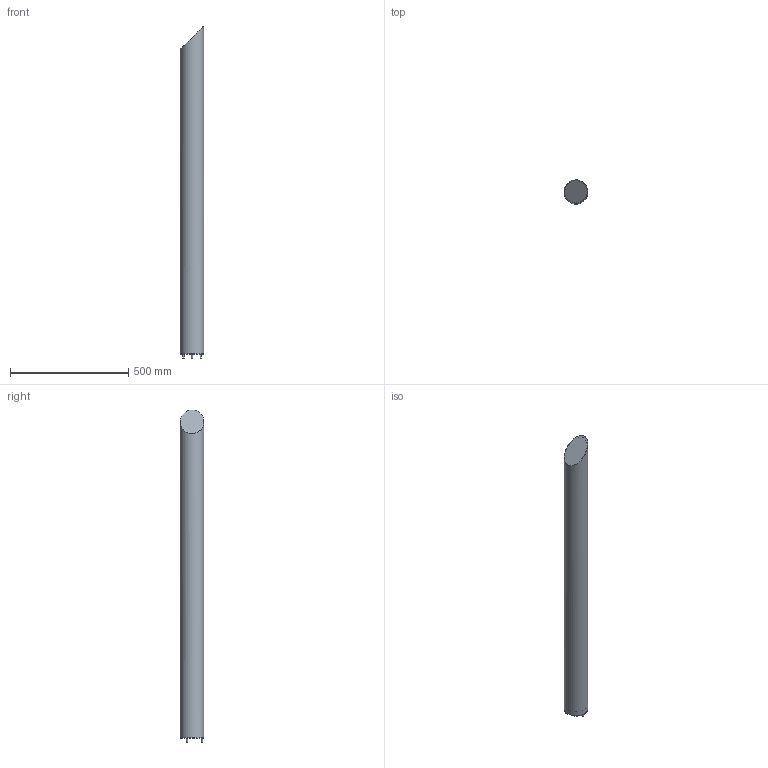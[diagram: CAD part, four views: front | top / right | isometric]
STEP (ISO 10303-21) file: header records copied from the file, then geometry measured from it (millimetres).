
FILE_DESCRIPTION(/* description */ (''),/* implementation_level */ '2;1');
FILE_NAME(/* name */ 'C:/Users/LukasGröber/GMS Cloud/Groeber Mannheim Lichtwerke - Dokumente/Marketing/Produkte/3D Daten/Light Star/Light Star 140.step',/* time_stamp */ '2022-07-06T12:50:42+02:00',/* author */ (''),/* organization */ (''),/* preprocessor_version */ 'ST-DEVELOPER v18.1',/* originating_system */ 'Autodesk Translation Framework v10.10.0.1391',/* authorisation */ '');
FILE_SCHEMA (('AUTOMOTIVE_DESIGN { 1 0 10303 214 3 1 1 }'));
Length unit declared in the file: millimetre
Products named in the file (3): Light Star 140 (Modell); Fuß Light Star/Stick Modell; Rohr Light Star 140
Assembly tree (2 placements, depth 2):
  Light Star 140 (Modell)
    Fuß Light Star/Stick Modell
    Rohr Light Star 140
Bounding box: 100 x 100 x 1402 mm (x, y, z)
Volume: 1425590.1 mm3; surface area: 857746.4 mm2
Topology: 2 solids, 2 shells, 18 faces, 26 edges, 17 vertices
Faces by surface type: plane 10, cylinder 7, cone 1
Full cylindrical faces by diameter (mm): 5 x3, 94 x2, 100 x2
Entity records: 498 total; most frequent: DIRECTION 89, CARTESIAN_POINT 66, ORIENTED_EDGE 52, AXIS2_PLACEMENT_3D 40, EDGE_CURVE 26, EDGE_LOOP 23, FACE_OUTER_BOUND 18, ADVANCED_FACE 18
